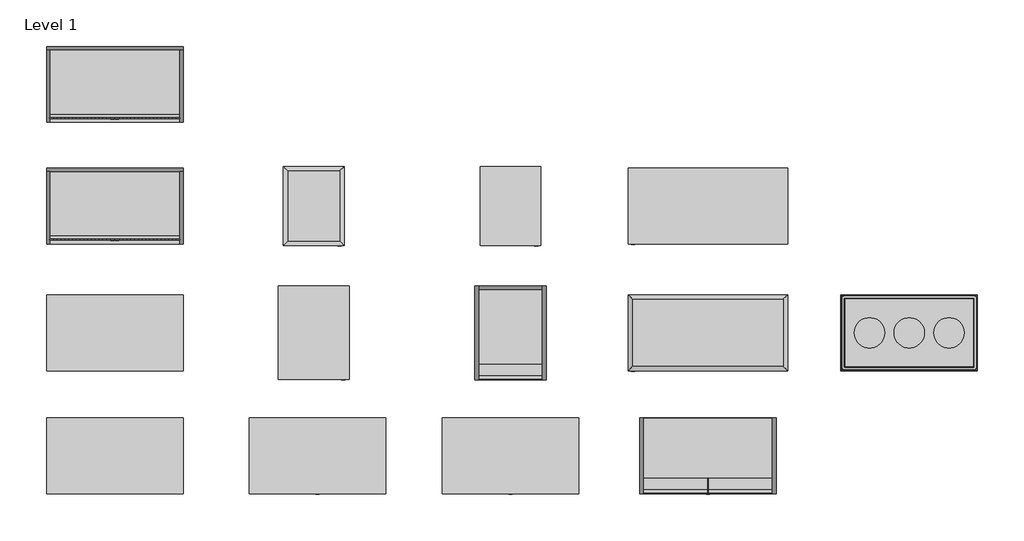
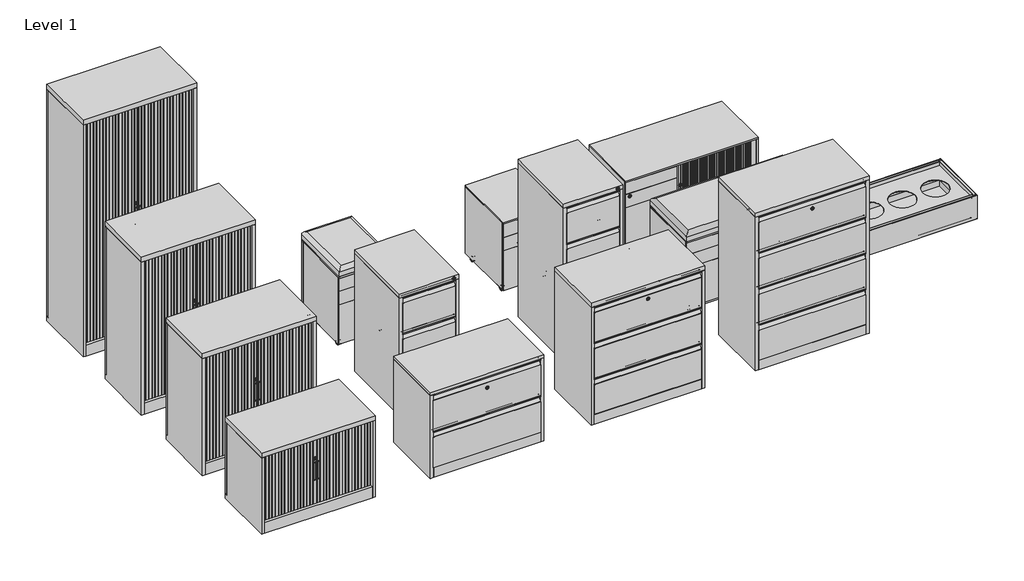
# One storey: 14 furniture elements.
"""IFC4 building model written with IfcOpenShell, lengths in millimetres."""

from ifc_helpers import new_model, si_unit, origin, place, context, project, spatial, transform, mapped, element, save
from components import furniture_0ea46203, furniture_b2eec27c, furniture_54b3566a, furniture_2_drawer_lateral_file_2_drawer_lateral_file_d51224f1, furniture_3_drawer_filing_3_drawer_filing_0942cf7e, furniture_3_drawer_lateral_file_3_drawer_lateral_file_a152fcf4, furniture_4_drawer_filing_4_drawer_filing_29aae855, furniture_4_drawer_lateral_file_4_drawer_lateral_file_b16b4bcb, cupboard_900_x_500_x_1020_cupboard_900_x_500_x_1020_58e128f4, cupboard_900_x_500_x_1320_cupboard_900_x_500_x_1320_df4613f7, cupboard_900_x_500_x_1980_cupboard_900_x_500_x_1980_3b477151, cupboard_900_x_500_x_680_cupboard_900_x_500_x_680_8522250a, lh_mobile_caddy_sliding_door_lh_mobile_caddy_sliding_door_960350dd, lh_mobile_caddy_sliding_door_lh_mobile_caddy_sliding_door_7feb8386, lh_mobile_caddy_lh_mobile_caddy_ec028b27, planter_box_planter_box_1802a210

model = new_model("IFC4")

# Units and contexts
model_context = context("Model", 3, world=origin())
ifc_project = project(units=[si_unit("LENGTHUNIT", "METRE", prefix="MILLI")], contexts=[model_context])

# Site, building, storey
site = spatial("IfcSite", under=ifc_project)
building = spatial("IfcBuilding", under=site)
storey = spatial("IfcBuildingStorey", under=building, Name="Level 1", Elevation=0.0)

# Furniture
placement = place(None, origin())
furniture_shape = furniture_0ea46203(model_context)
element("IfcFurniture", 1, ObjectType="LH mobile caddy w.unpholstered seat : LH mobile caddy w.unpholstered seat", at=placement, inside=storey, context=model_context, shape_type="MappedRepresentation", body=[
    mapped(furniture_shape, transform((-9630.3314579, 379.7478113, 0.0), x_axis=(1.0, 0.0, 0.0), y_axis=(0.0, 1.0, 0.0), z_axis=(0.0, 0.0, 1.0))),
])
furniture_2_shape = furniture_b2eec27c(model_context)
furniture_3_shape = furniture_54b3566a(model_context)
element("IfcFurniture", 2, ObjectType="LH mobile caddy w.unpholstered seat+ sliding : LH mobile caddy w.unpholstered seat+ sliding", at=placement, inside=storey, context=model_context, shape_type="MappedRepresentation", body=[
    mapped(furniture_2_shape, transform((-7032.1313157, -457.1737773, 0.0), x_axis=(-1.0, 0.0, 0.0), y_axis=(0.0, -1.0, 0.0), z_axis=(0.0, 0.0, 1.0))),
    mapped(furniture_3_shape, transform((-7032.1313157, -457.1737773, 0.0), x_axis=(-1.0, 0.0, 0.0), y_axis=(0.0, -1.0, 0.0), z_axis=(0.0, 0.0, 1.0))),
])
furniture_2_drawer_lateral_file_2_drawer_lateral_file_shape = furniture_2_drawer_lateral_file_2_drawer_lateral_file_d51224f1(model_context)
element("IfcFurniture", 3, ObjectType="2 drawer lateral file : 2 drawer lateral file", at=placement, inside=storey, context=model_context, shape_type="MappedRepresentation", body=[
    mapped(furniture_2_drawer_lateral_file_2_drawer_lateral_file_shape, transform((-9606.4518042, -1268.3548613, 0.0), x_axis=(1.0, 0.0, 0.0), y_axis=(0.0, 1.0, 0.0), z_axis=(0.0, 0.0, 1.0))),
])
furniture_3_drawer_filing_3_drawer_filing_shape = furniture_3_drawer_filing_3_drawer_filing_0942cf7e(model_context)
element("IfcFurniture", 4, ObjectType="3 drawer Filing : 3 drawer Filing", at=placement, inside=storey, context=model_context, shape_type="MappedRepresentation", body=[
    mapped(furniture_3_drawer_filing_3_drawer_filing_shape, transform((-9630.3314579, -457.1737773, 0.0), x_axis=(1.0, 0.0, 0.0), y_axis=(0.0, 1.0, 0.0), z_axis=(0.0, 0.0, 1.0))),
])
furniture_3_drawer_lateral_file_3_drawer_lateral_file_shape = furniture_3_drawer_lateral_file_3_drawer_lateral_file_a152fcf4(model_context)
element("IfcFurniture", 5, ObjectType="3 drawer lateral file : 3 drawer lateral file", at=placement, inside=storey, context=model_context, shape_type="MappedRepresentation", body=[
    mapped(furniture_3_drawer_lateral_file_3_drawer_lateral_file_shape, transform((-8333.4464557, -1268.3548613, 0.0), x_axis=(1.0, 0.0, 0.0), y_axis=(0.0, 1.0, 0.0), z_axis=(0.0, 0.0, 1.0))),
])
furniture_4_drawer_filing_4_drawer_filing_shape = furniture_4_drawer_filing_4_drawer_filing_29aae855(model_context)
element("IfcFurniture", 6, ObjectType="4 drawer Filing : 4 drawer Filing", at=placement, inside=storey, context=model_context, shape_type="MappedRepresentation", body=[
    mapped(furniture_4_drawer_filing_4_drawer_filing_shape, transform((-8333.4464557, -457.1737773, 0.0), x_axis=(1.0, 0.0, 0.0), y_axis=(0.0, 1.0, 0.0), z_axis=(0.0, 0.0, 1.0))),
])
furniture_4_drawer_lateral_file_4_drawer_lateral_file_shape = furniture_4_drawer_lateral_file_4_drawer_lateral_file_b16b4bcb(model_context)
element("IfcFurniture", 7, ObjectType="4 drawer lateral file : 4 drawer lateral file", at=placement, inside=storey, context=model_context, shape_type="MappedRepresentation", body=[
    mapped(furniture_4_drawer_lateral_file_4_drawer_lateral_file_shape, transform((-7032.1313157, -1268.3548613, 0.0), x_axis=(1.0, 0.0, 0.0), y_axis=(0.0, 1.0, 0.0), z_axis=(0.0, 0.0, 1.0))),
])
cupboard_900_x_500_x_1020_cupboard_900_x_500_x_1020_shape = cupboard_900_x_500_x_1020_cupboard_900_x_500_x_1020_58e128f4(model_context)
element("IfcFurniture", 8, ObjectType="Cupboard (900 x 500 x 1020) : Cupboard (900 x 500 x 1020)", at=placement, inside=storey, context=model_context, shape_type="MappedRepresentation", body=[
    mapped(cupboard_900_x_500_x_1020_cupboard_900_x_500_x_1020_shape, transform((-10941.9629621, -457.1737773, 0.0), x_axis=(1.0, 0.0, 0.0), y_axis=(0.0, 1.0, 0.0), z_axis=(0.0, 0.0, 1.0))),
])
cupboard_900_x_500_x_1320_cupboard_900_x_500_x_1320_shape = cupboard_900_x_500_x_1320_cupboard_900_x_500_x_1320_df4613f7(model_context)
element("IfcFurniture", 9, ObjectType="Cupboard (900 x 500 x 1320) : Cupboard (900 x 500 x 1320)", at=placement, inside=storey, context=model_context, shape_type="MappedRepresentation", body=[
    mapped(cupboard_900_x_500_x_1320_cupboard_900_x_500_x_1320_shape, transform((-10941.9629621, 379.7478113, 0.0), x_axis=(1.0, 0.0, 0.0), y_axis=(0.0, 1.0, 0.0), z_axis=(0.0, 0.0, 1.0))),
])
cupboard_900_x_500_x_1980_cupboard_900_x_500_x_1980_shape = cupboard_900_x_500_x_1980_cupboard_900_x_500_x_1980_3b477151(model_context)
element("IfcFurniture", 10, ObjectType="Cupboard (900 x 500 x 1980) : Cupboard (900 x 500 x 1980)", at=placement, inside=storey, context=model_context, shape_type="MappedRepresentation", body=[
    mapped(cupboard_900_x_500_x_1980_cupboard_900_x_500_x_1980_shape, transform((-10941.9629621, 1181.5643818, 0.0), x_axis=(1.0, 0.0, 0.0), y_axis=(0.0, 1.0, 0.0), z_axis=(0.0, 0.0, 1.0))),
])
cupboard_900_x_500_x_680_cupboard_900_x_500_x_680_shape = cupboard_900_x_500_x_680_cupboard_900_x_500_x_680_8522250a(model_context)
element("IfcFurniture", 11, ObjectType="Cupboard (900 x 500 x 680) : Cupboard (900 x 500 x 680)", at=placement, inside=storey, context=model_context, shape_type="MappedRepresentation", body=[
    mapped(cupboard_900_x_500_x_680_cupboard_900_x_500_x_680_shape, transform((-10941.9629621, -1268.3548613, 0.0), x_axis=(1.0, 0.0, 0.0), y_axis=(0.0, 1.0, 0.0), z_axis=(0.0, 0.0, 1.0))),
])
lh_mobile_caddy_sliding_door_lh_mobile_caddy_sliding_door_shape = lh_mobile_caddy_sliding_door_lh_mobile_caddy_sliding_door_960350dd(model_context)
lh_mobile_caddy_sliding_door_lh_mobile_caddy_sliding_door_2_shape = lh_mobile_caddy_sliding_door_lh_mobile_caddy_sliding_door_7feb8386(model_context)
element("IfcFurniture", 12, ObjectType="LH mobile caddy + sliding door : LH mobile caddy + sliding door", at=placement, inside=storey, context=model_context, shape_type="MappedRepresentation", body=[
    mapped(lh_mobile_caddy_sliding_door_lh_mobile_caddy_sliding_door_shape, transform((-7032.1313157, 379.7478113, 0.0), x_axis=(-1.0, 0.0, 0.0), y_axis=(0.0, -1.0, 0.0), z_axis=(0.0, 0.0, 1.0))),
    mapped(lh_mobile_caddy_sliding_door_lh_mobile_caddy_sliding_door_2_shape, transform((-7032.1313157, 379.7478113, 0.0), x_axis=(-1.0, 0.0, 0.0), y_axis=(0.0, -1.0, 0.0), z_axis=(0.0, 0.0, 1.0))),
])
lh_mobile_caddy_lh_mobile_caddy_shape = lh_mobile_caddy_lh_mobile_caddy_ec028b27(model_context)
element("IfcFurniture", 13, ObjectType="LH mobile caddy : LH mobile caddy", at=placement, inside=storey, context=model_context, shape_type="MappedRepresentation", body=[
    mapped(lh_mobile_caddy_lh_mobile_caddy_shape, transform((-8333.4464557, 379.7478113, 0.0), x_axis=(1.0, 0.0, 0.0), y_axis=(0.0, 1.0, 0.0), z_axis=(0.0, 0.0, 1.0))),
])
planter_box_planter_box_shape = planter_box_planter_box_1802a210(model_context)
element("IfcFurniture", 14, ObjectType="Planter Box : Planter Box", at=placement, inside=storey, context=model_context, shape_type="MappedRepresentation", body=[
    mapped(planter_box_planter_box_shape, transform((-5705.6995418, -457.1737773, 0.0), x_axis=(1.0, 0.0, 0.0), y_axis=(0.0, 1.0, 0.0), z_axis=(0.0, 0.0, 1.0))),
])

save(model, "model.ifc")
